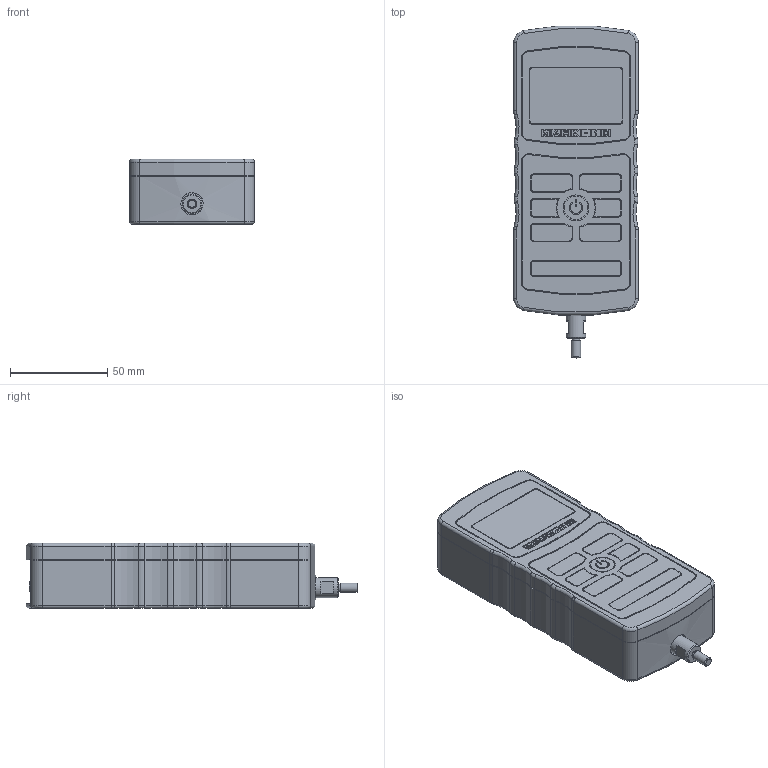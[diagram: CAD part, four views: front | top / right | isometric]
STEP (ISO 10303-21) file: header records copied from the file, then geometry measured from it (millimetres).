
FILE_DESCRIPTION(/* description */ (''),/* implementation_level */ '2;1');
FILE_NAME(/* name */ 'F:\MARKETING\SOLID MODELS\FORCE GAUGES\M5\M5.stp',/* time_stamp */ '2024-03-26T16:28:40-04:00',/* author */ ('ntakaki'),/* organization */ (''),/* preprocessor_version */ 'ST-DEVELOPER v18.1',/* originating_system */ 'AutoCAD Mechanical',/* authorisation */ '');
FILE_SCHEMA (('AUTOMOTIVE_DESIGN { 1 0 10303 214 3 1 1 }'));
Length unit declared in the file: inch
Products named in the file (1): Product
Bounding box: 64.26 x 170.93 x 33.84 mm (x, y, z)
Volume: 305880.8 mm3; surface area: 38045.5 mm2
Topology: 1 solids, 4 shells, 755 faces, 1842 edges, 1187 vertices
Faces by surface type: plane 398, cylinder 287, torus 56, cone 12, sphere 2
Full cylindrical faces by diameter (mm): 1.016 x15, 2.063 x1, 2.068 x2, 2.5 x1, 3.175 x1, 3.505 x6, 3.81 x1, 4 x2, 4.775 x1, 4.826 x1, 5.486 x2, 6.096 x2, 6.299 x1, 7.163 x1, 7.925 x1, 7.938 x1, 10.16 x1, 11.43 x1, 11.938 x1, 12.065 x1, 12.7 x1, 13.335 x1
Entity records: 22316 total; most frequent: DIRECTION 4051, CARTESIAN_POINT 3887, ORIENTED_EDGE 3680, EDGE_CURVE 1840, AXIS2_PLACEMENT_3D 1471, VERTEX_POINT 1187, LINE 1109, VECTOR 1109
